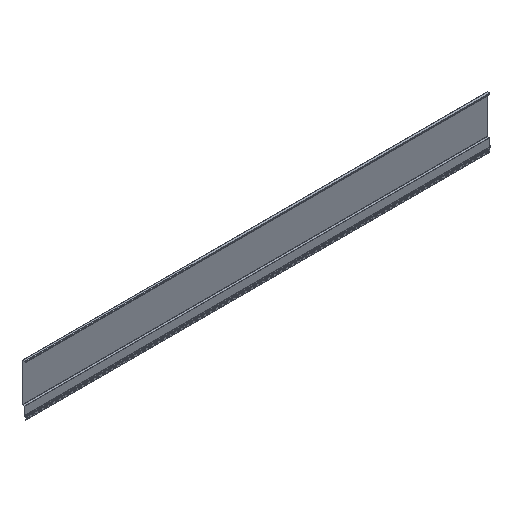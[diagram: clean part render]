
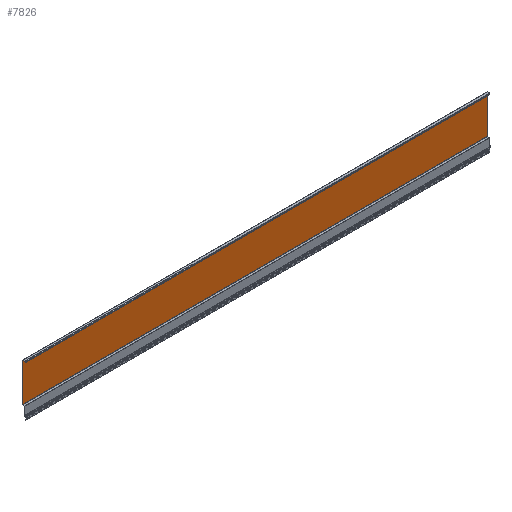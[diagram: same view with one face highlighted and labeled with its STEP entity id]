
A CAD part, isometric view. The second image highlights one B-rep face of the part: STEP entity #7826.
In plain terms, the highlighted planar face has unit normal (0, -1, 0).
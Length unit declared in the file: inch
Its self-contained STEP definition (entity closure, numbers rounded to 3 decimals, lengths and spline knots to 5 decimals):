
#359=PLANE('',#8574);
#725=FACE_OUTER_BOUND('',#1263,.T.);
#1263=EDGE_LOOP('',(#7152,#7153,#7154,#7155));
#2009=LINE('',#13012,#2767);
#2010=LINE('',#13015,#2768);
#2011=LINE('',#13017,#2769);
#2012=LINE('',#13018,#2770);
#2767=VECTOR('',#10748,0.3937);
#2768=VECTOR('',#10751,0.3937);
#2769=VECTOR('',#10752,0.3937);
#2770=VECTOR('',#10753,0.3937);
#3888=VERTEX_POINT('',#13008);
#3889=VERTEX_POINT('',#13010);
#3890=VERTEX_POINT('',#13014);
#3891=VERTEX_POINT('',#13016);
#4989=EDGE_CURVE('',#3888,#3889,#2009,.T.);
#4990=EDGE_CURVE('',#3890,#3888,#2010,.T.);
#4991=EDGE_CURVE('',#3891,#3889,#2011,.T.);
#4992=EDGE_CURVE('',#3890,#3891,#2012,.T.);
#7152=ORIENTED_EDGE('',*,*,#4990,.T.);
#7153=ORIENTED_EDGE('',*,*,#4989,.T.);
#7154=ORIENTED_EDGE('',*,*,#4991,.F.);
#7155=ORIENTED_EDGE('',*,*,#4992,.F.);
#7826=ADVANCED_FACE('',(#725),#359,.T.);
#8574=AXIS2_PLACEMENT_3D('',#13013,#10749,#10750);
#10748=DIRECTION('',(1.,0.,0.));
#10749=DIRECTION('center_axis',(0.,-1.,0.));
#10750=DIRECTION('ref_axis',(0.,0.,-1.));
#10751=DIRECTION('',(0.,0.,-1.));
#10752=DIRECTION('',(0.,0.,-1.));
#10753=DIRECTION('',(1.,0.,0.));
#13008=CARTESIAN_POINT('',(0.,0.62353,-9.95912));
#13010=CARTESIAN_POINT('',(120.,0.62353,-9.95912));
#13012=CARTESIAN_POINT('',(0.,0.62353,-9.95912));
#13013=CARTESIAN_POINT('Origin',(0.,0.62353,-0.05912));
#13014=CARTESIAN_POINT('',(0.,0.62353,-0.05912));
#13015=CARTESIAN_POINT('',(0.,0.62353,-0.05912));
#13016=CARTESIAN_POINT('',(120.,0.62353,-0.05912));
#13017=CARTESIAN_POINT('',(120.,0.62353,-0.05912));
#13018=CARTESIAN_POINT('',(0.,0.62353,-0.05912));
